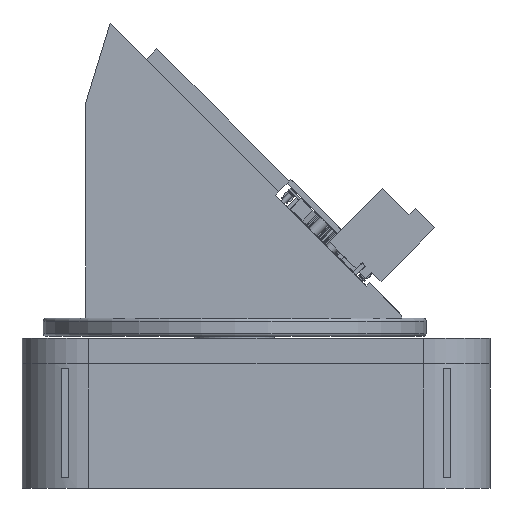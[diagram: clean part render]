
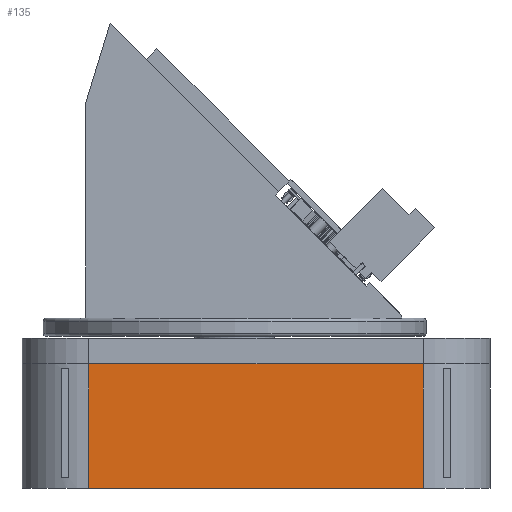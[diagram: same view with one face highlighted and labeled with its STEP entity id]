
A CAD part, left-side view. The second image highlights one B-rep face of the part: STEP entity #135.
In plain terms, the highlighted planar face has unit normal (-1, 0, 0).
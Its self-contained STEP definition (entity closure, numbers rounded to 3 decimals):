
#135 = ADVANCED_FACE('',(#136),#150,.F.);
#136 = FACE_BOUND('',#137,.F.);
#137 = EDGE_LOOP('',(#138,#173,#201,#229));
#138 = ORIENTED_EDGE('',*,*,#139,.F.);
#139 = EDGE_CURVE('',#140,#142,#144,.T.);
#140 = VERTEX_POINT('',#141);
#141 = CARTESIAN_POINT('',(-75.,-55.,41.));
#142 = VERTEX_POINT('',#143);
#143 = CARTESIAN_POINT('',(-75.,55.,41.));
#144 = SURFACE_CURVE('',#145,(#149,#161),.PCURVE_S1.);
#145 = LINE('',#146,#147);
#146 = CARTESIAN_POINT('',(-75.,-77.,41.));
#147 = VECTOR('',#148,1.);
#148 = DIRECTION('',(0.,1.,0.));
#149 = PCURVE('',#150,#155);
#150 = PLANE('',#151);
#151 = AXIS2_PLACEMENT_3D('',#152,#153,#154);
#152 = CARTESIAN_POINT('',(-75.,-77.,0.));
#153 = DIRECTION('',(1.,0.,0.));
#154 = DIRECTION('',(0.,0.,1.));
#155 = DEFINITIONAL_REPRESENTATION('',(#156),#160);
#156 = LINE('',#157,#158);
#157 = CARTESIAN_POINT('',(41.,0.));
#158 = VECTOR('',#159,1.);
#159 = DIRECTION('',(0.,-1.));
#160 = ( GEOMETRIC_REPRESENTATION_CONTEXT(2) 
PARAMETRIC_REPRESENTATION_CONTEXT() REPRESENTATION_CONTEXT('2D SPACE',''
  ) );
#161 = PCURVE('',#162,#167);
#162 = PLANE('',#163);
#163 = AXIS2_PLACEMENT_3D('',#164,#165,#166);
#164 = CARTESIAN_POINT('',(-75.,-77.,41.));
#165 = DIRECTION('',(0.,0.,1.));
#166 = DIRECTION('',(1.,0.,0.));
#167 = DEFINITIONAL_REPRESENTATION('',(#168),#172);
#168 = LINE('',#169,#170);
#169 = CARTESIAN_POINT('',(0.,0.));
#170 = VECTOR('',#171,1.);
#171 = DIRECTION('',(0.,1.));
#172 = ( GEOMETRIC_REPRESENTATION_CONTEXT(2) 
PARAMETRIC_REPRESENTATION_CONTEXT() REPRESENTATION_CONTEXT('2D SPACE',''
  ) );
#173 = ORIENTED_EDGE('',*,*,#174,.F.);
#174 = EDGE_CURVE('',#175,#140,#177,.T.);
#175 = VERTEX_POINT('',#176);
#176 = CARTESIAN_POINT('',(-75.,-55.,0.));
#177 = SURFACE_CURVE('',#178,(#182,#189),.PCURVE_S1.);
#178 = LINE('',#179,#180);
#179 = CARTESIAN_POINT('',(-75.,-55.,0.));
#180 = VECTOR('',#181,1.);
#181 = DIRECTION('',(0.,0.,1.));
#182 = PCURVE('',#150,#183);
#183 = DEFINITIONAL_REPRESENTATION('',(#184),#188);
#184 = LINE('',#185,#186);
#185 = CARTESIAN_POINT('',(0.,-22.));
#186 = VECTOR('',#187,1.);
#187 = DIRECTION('',(1.,0.));
#188 = ( GEOMETRIC_REPRESENTATION_CONTEXT(2) 
PARAMETRIC_REPRESENTATION_CONTEXT() REPRESENTATION_CONTEXT('2D SPACE',''
  ) );
#189 = PCURVE('',#190,#195);
#190 = CYLINDRICAL_SURFACE('',#191,22.);
#191 = AXIS2_PLACEMENT_3D('',#192,#193,#194);
#192 = CARTESIAN_POINT('',(-53.,-55.,0.));
#193 = DIRECTION('',(0.,0.,1.));
#194 = DIRECTION('',(-1.,-0.,0.));
#195 = DEFINITIONAL_REPRESENTATION('',(#196),#200);
#196 = LINE('',#197,#198);
#197 = CARTESIAN_POINT('',(0.,0.));
#198 = VECTOR('',#199,1.);
#199 = DIRECTION('',(0.,1.));
#200 = ( GEOMETRIC_REPRESENTATION_CONTEXT(2) 
PARAMETRIC_REPRESENTATION_CONTEXT() REPRESENTATION_CONTEXT('2D SPACE',''
  ) );
#201 = ORIENTED_EDGE('',*,*,#202,.T.);
#202 = EDGE_CURVE('',#175,#203,#205,.T.);
#203 = VERTEX_POINT('',#204);
#204 = CARTESIAN_POINT('',(-75.,55.,0.));
#205 = SURFACE_CURVE('',#206,(#210,#217),.PCURVE_S1.);
#206 = LINE('',#207,#208);
#207 = CARTESIAN_POINT('',(-75.,-77.,0.));
#208 = VECTOR('',#209,1.);
#209 = DIRECTION('',(0.,1.,0.));
#210 = PCURVE('',#150,#211);
#211 = DEFINITIONAL_REPRESENTATION('',(#212),#216);
#212 = LINE('',#213,#214);
#213 = CARTESIAN_POINT('',(0.,0.));
#214 = VECTOR('',#215,1.);
#215 = DIRECTION('',(0.,-1.));
#216 = ( GEOMETRIC_REPRESENTATION_CONTEXT(2) 
PARAMETRIC_REPRESENTATION_CONTEXT() REPRESENTATION_CONTEXT('2D SPACE',''
  ) );
#217 = PCURVE('',#218,#223);
#218 = PLANE('',#219);
#219 = AXIS2_PLACEMENT_3D('',#220,#221,#222);
#220 = CARTESIAN_POINT('',(-75.,-77.,0.));
#221 = DIRECTION('',(0.,0.,1.));
#222 = DIRECTION('',(1.,0.,0.));
#223 = DEFINITIONAL_REPRESENTATION('',(#224),#228);
#224 = LINE('',#225,#226);
#225 = CARTESIAN_POINT('',(0.,0.));
#226 = VECTOR('',#227,1.);
#227 = DIRECTION('',(0.,1.));
#228 = ( GEOMETRIC_REPRESENTATION_CONTEXT(2) 
PARAMETRIC_REPRESENTATION_CONTEXT() REPRESENTATION_CONTEXT('2D SPACE',''
  ) );
#229 = ORIENTED_EDGE('',*,*,#230,.T.);
#230 = EDGE_CURVE('',#203,#142,#231,.T.);
#231 = SURFACE_CURVE('',#232,(#236,#243),.PCURVE_S1.);
#232 = LINE('',#233,#234);
#233 = CARTESIAN_POINT('',(-75.,55.,0.));
#234 = VECTOR('',#235,1.);
#235 = DIRECTION('',(0.,0.,1.));
#236 = PCURVE('',#150,#237);
#237 = DEFINITIONAL_REPRESENTATION('',(#238),#242);
#238 = LINE('',#239,#240);
#239 = CARTESIAN_POINT('',(0.,-132.));
#240 = VECTOR('',#241,1.);
#241 = DIRECTION('',(1.,0.));
#242 = ( GEOMETRIC_REPRESENTATION_CONTEXT(2) 
PARAMETRIC_REPRESENTATION_CONTEXT() REPRESENTATION_CONTEXT('2D SPACE',''
  ) );
#243 = PCURVE('',#244,#249);
#244 = CYLINDRICAL_SURFACE('',#245,22.);
#245 = AXIS2_PLACEMENT_3D('',#246,#247,#248);
#246 = CARTESIAN_POINT('',(-53.,55.,0.));
#247 = DIRECTION('',(0.,0.,1.));
#248 = DIRECTION('',(-1.,-0.,0.));
#249 = DEFINITIONAL_REPRESENTATION('',(#250),#254);
#250 = LINE('',#251,#252);
#251 = CARTESIAN_POINT('',(-0.,0.));
#252 = VECTOR('',#253,1.);
#253 = DIRECTION('',(-0.,1.));
#254 = ( GEOMETRIC_REPRESENTATION_CONTEXT(2) 
PARAMETRIC_REPRESENTATION_CONTEXT() REPRESENTATION_CONTEXT('2D SPACE',''
  ) );
